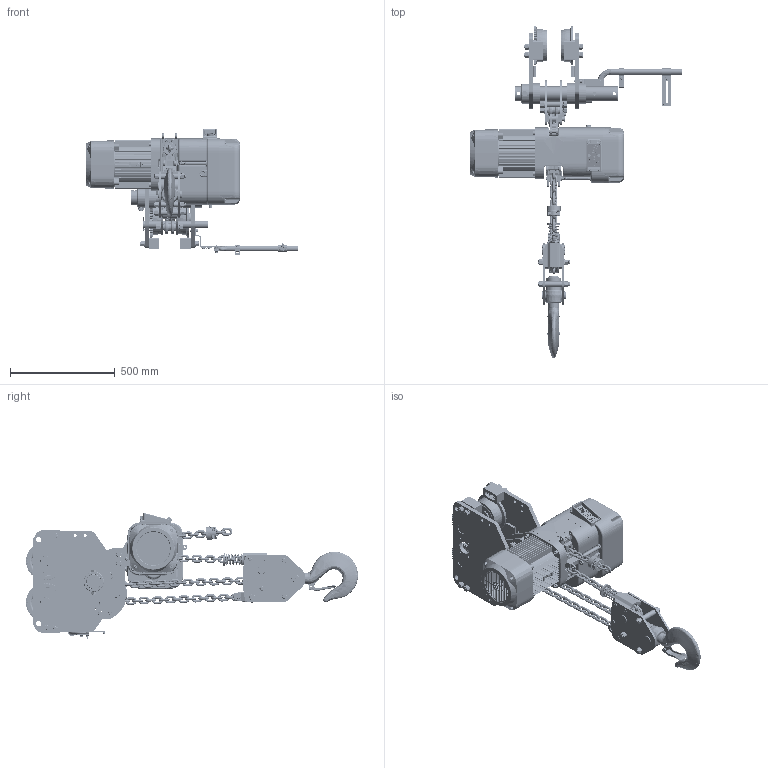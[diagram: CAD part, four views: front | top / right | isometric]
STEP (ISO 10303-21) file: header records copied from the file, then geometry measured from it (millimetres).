
FILE_DESCRIPTION (( 'STEP AP214' ), '1' );
FILE_NAME ('NER2P080S.STEP', '2026-08-05T14:53:47', ( '' ), ( '' ), 'SwSTEP 2.0', 'SolidWorks 2026', '' );
FILE_SCHEMA (( 'AUTOMOTIVE_DESIGN' ));
Length unit declared in the file: inch
Products named in the file (122): ER2CS9511; E6SE075S90391; T3GA1009103; ER2FS9117; E6S023100; MR1DS1481; ER1FH9054; hex cap screw_am_9093328; ER2FS6122; ER2EI4511; socket head cap screw_am_9091271; E3S112003; T3GA1009118; ER2HS90061; E6S010075_E6S010075; ER2HS90341; E3S111003; ER2CS9357; LCER2025 NP (SHAPED 2); E6SE075S90671; hex nut style 1_am_9093439; ER2BHM1QS9A6; ER2HS11211; ER2HS50041; ES558003; C1BA10090302; ER1HS90561; E6L614010S; ER2EI2523; external tooth lock washer_am_PreviewCfg; MR1DS9492; spring lock washer_2_jis_9012715; ER2FS9337; ER1HS90161; M6F554010; 9091254_9091254; MR1DS1493; T3GA1009112; ER2FS9338; MS161100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
Assembly tree (321 placements, depth 5):
  NER2P080S
    PTS080_6" FLANGE
      T3GB1005112
        T3GA1009112
        T3GA1009118
        M6SE100S9114
        T3GA1009103  x2
      T3GA1005111
        T3GA1009111
        M6SE100S9113
        T3GA1009118
        T3GA1009103  x2
      T3G1102075  x2
        T3GA1009102
        6308Z Bearing
        basic internal retaining ring_am_J1SR000-00090
      MS104075  x4
      9047140_9047140  x4
      T5AB0759141  x4
      90912156_90912156  x8
      spring lock washer_2_jis_9012715  x8
      hex nut style 1_am_9093439  x8
      MS115075_MS115075
      MS161100
      MS164075
      9009436_9009436  x2
      T3G1101075  x2
        T3GA1009101
        6308Z Bearing
        basic internal retaining ring_am_J1SR000-00090
      hexagon slotted nut low_1_jis_T3G154075
    NER2080S_FOR SCC
      ER2HS50051
        ER2HS90061
        ER1HS90161  x2
        ER2HS90051
      ER2HS50031
        ER2HS90031
        ER1HS90091
      ER2HS50041
        ER2HS90041
        ER1HS90091
      E6SE075S90081  x2
      ER1HS90561  x2
      single coil rectangular section spring washer_bsi_9012711  x4
      socket head cap screw_am_9091271  x4
      E7SE075S90071  x3
      spring lock washer_2_jis_9012717  x6
      hex nut style 1_am_9093445  x6
      E6SE075S90531
      ER2BHM75S9A6
      LCER2025 NP (8T SD)
        LCER2025NP  x66
      ER2HS11211
        ER2HS90341
        ER2HS90351
        E6SE075S90391
        E6SE075S90401
        E7SE075S90381  x3
        spring lock washer_2_jis_9012715  x6
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Bounding box: 1010.59 x 1581.54 x 597.87 mm (x, y, z)
Volume: 48971409.6 mm3; surface area: 5786297.5 mm2
Topology: 322 solids, 342 shells, 12302 faces, 31354 edges, 19754 vertices
Faces by surface type: cylinder 4562, plane 4151, torus 1268, cone 1082, bspline 966, sphere 273
Entity records: 304723 total; most frequent: CARTESIAN_POINT 124191, ORIENTED_EDGE 36296, DIRECTION 36278, EDGE_CURVE 18150, AXIS2_PLACEMENT_3D 14311, VERTEX_POINT 11531, EDGE_LOOP 7907, LINE 7656
